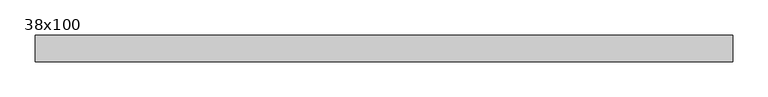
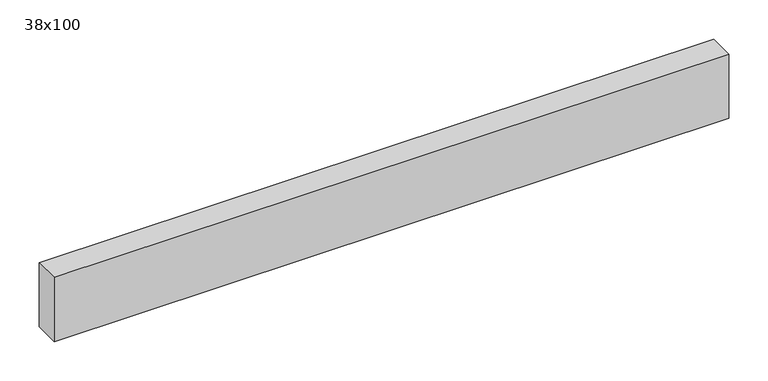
"""IFC4 building model written with IfcOpenShell, lengths in millimetres: beam geometry, Poutre - Bois de construction de dimensions courantes : 38x100."""

from ifc_helpers import new_model, si_unit, frame, origin, place, context, project, spatial, polyline, outline, extrude, source, transform, mapped, element, save


def beam_38x100_eeb96b98(model_context):
    return source(origin(), model_context, "Body", "SweptSolid", [
        extrude(outline(polyline([(442.0, 19.05), (442.0, -19.05), (-552.0, -19.05), (-552.0, 19.05), (442.0, 19.05)])), frame((0.0, 0.0, -50.0), z_axis=(0.0, 0.0, 1.0), x_axis=(1.0, 0.0, 0.0)), (0.0, 0.0, 1.0), 100.0),
    ])


if __name__ == "__main__":
    model = new_model("IFC4")
    model_context = context("Model", 3, world=origin())
    ifc_project = project(units=[si_unit("LENGTHUNIT", "METRE", prefix="MILLI")], contexts=[model_context])
    site = spatial("IfcSite", under=ifc_project)
    building = spatial("IfcBuilding", under=site)
    placement = place(None, origin())
    beam_38x100_shape = beam_38x100_eeb96b98(model_context)
    element("IfcBeam", 1, ObjectType="Poutre - Bois de construction de dimensions courantes : 38x100", at=placement, inside=building, context=model_context, shape_type="MappedRepresentation", body=[
        mapped(beam_38x100_shape, transform((0.0, 0.0, 0.0), x_axis=(1.0, 0.0, 0.0), y_axis=(0.0, 1.0, 0.0), z_axis=(0.0, 0.0, 1.0))),
    ])
    save(model, "model.ifc")
